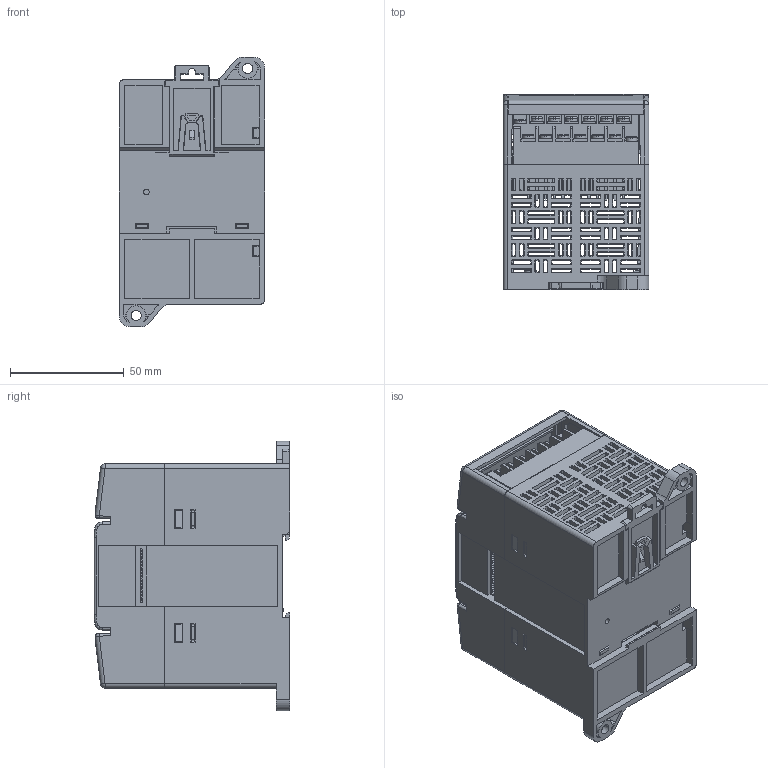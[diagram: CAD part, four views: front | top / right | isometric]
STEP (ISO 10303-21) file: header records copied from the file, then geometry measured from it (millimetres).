
FILE_DESCRIPTION((''),'2;1');
FILE_NAME('MP-16MK_ASM','2022-03-29T11:32:12',('Lenovo'),(''),'CREO PARAMETRIC BY PTC INC, 2020033','CREO PARAMETRIC BY PTC INC, 2020033','');
FILE_SCHEMA(('CONFIG_CONTROL_DESIGN'));
Products named in the file (14): MP-16MK-BASE; MP-16MK-COVER; KAKOU; EX_8X8Y-I; JL762D-76212E03; EX_8X8Y-I_ASM; EX_8X8Y-U; 2X10; 2X10-W; EX_8X8Y-U_ASM; MP-16MK-GB02; MP-16MK-GB01; MP-16MK-DGZ; MP-16MK_ASM
Assembly tree (15 placements, depth 3):
  MP-16MK_ASM
    MP-16MK-BASE
    MP-16MK-COVER
    KAKOU
    EX_8X8Y-I_ASM
      EX_8X8Y-I
      JL762D-76212E03  x2
    EX_8X8Y-U_ASM
      EX_8X8Y-U
      2X10
      2X10-W
    MP-16MK-GB02
    MP-16MK-GB01  x2
    MP-16MK-DGZ
Bounding box: 64.06 x 85.95 x 118.5 mm (x, y, z)
Volume: 137900.7 mm3; surface area: 139365.7 mm2
Topology: 31 solids, 55 shells, 4456 faces, 12026 edges, 7892 vertices
Faces by surface type: plane 2975, cylinder 1326, torus 78, cone 53, bspline 16, sphere 8
Entity records: 122299 total; most frequent: CARTESIAN_POINT 27879, ORIENTED_EDGE 20386, DIRECTION 17682, EDGE_CURVE 10193, VECTOR 7324, LINE 7324, VERTEX_POINT 6682, AXIS2_PLACEMENT_3D 5179
